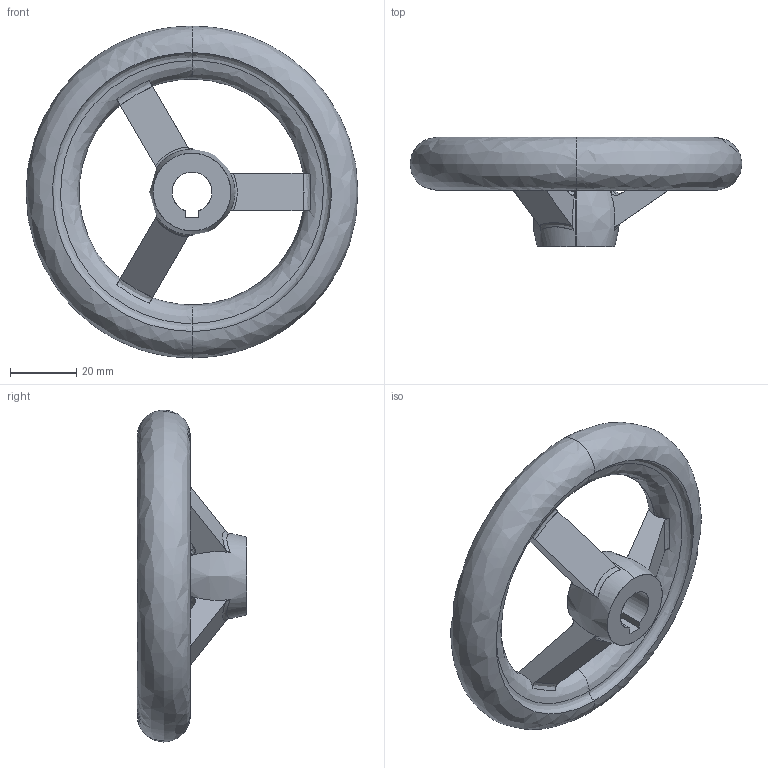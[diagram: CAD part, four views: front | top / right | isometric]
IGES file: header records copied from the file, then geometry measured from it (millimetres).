
Start section: SolidWorks IGES file using analytic representation for surfaces
Global section: file name: C:\Users\IanO\Desktop\Temp File\Process pending\77120_v2\77120_v2_20171108_IGES\77120.W0106.igs; native system: SolidWorks 2017; preprocessor: SolidWorks 2017; author: IanO; date: 171108.084143; units: millimetre
Bounding box: 100 x 33 x 100 mm (x, y, z)
Surface area: 18369.7 mm2 (no closed solid volume)
Topology: 0 solids, 0 shells, 51 faces, 803 edges, 796 vertices
Faces by surface type: bspline 50, revolution 1
